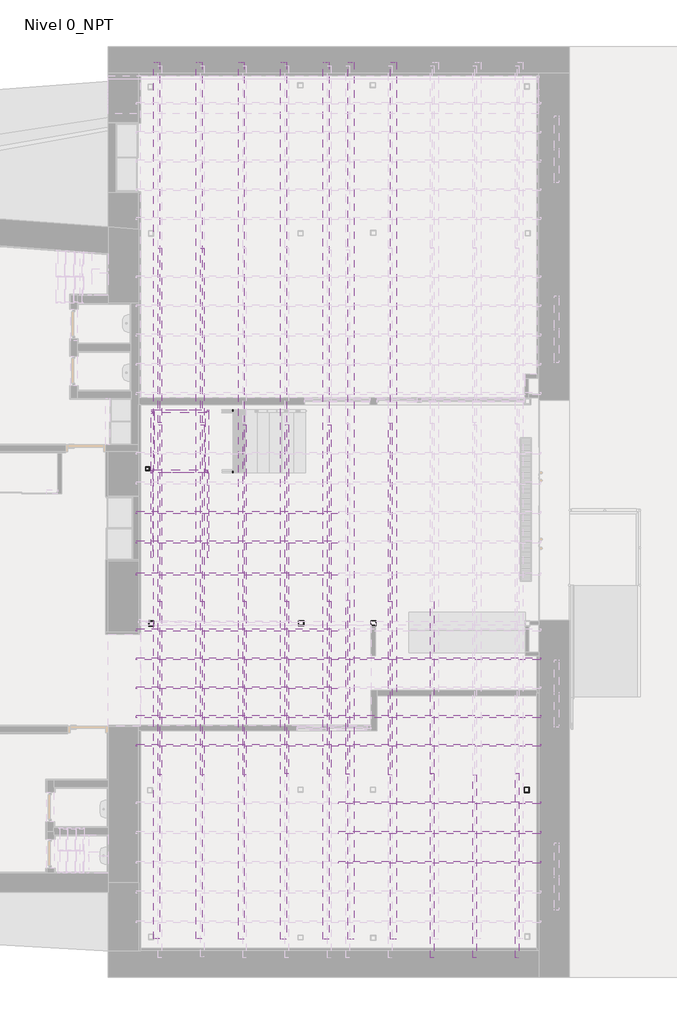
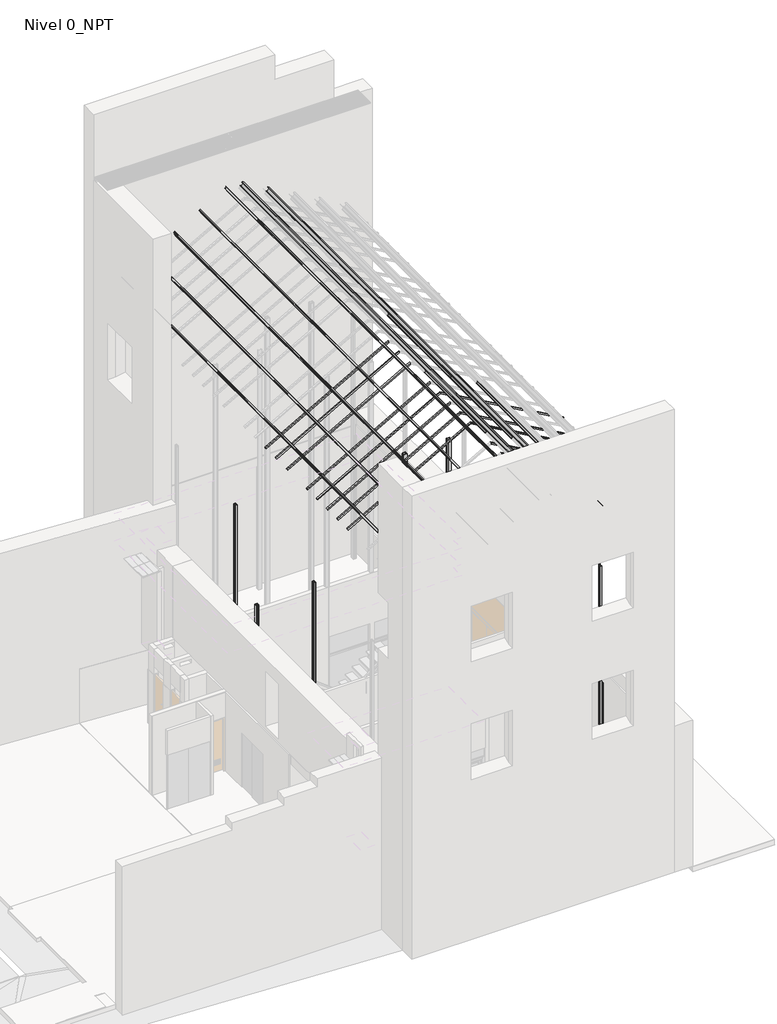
# One storey, part 6 of 10: 50 beams, 12 columns.
"""IFC4 building model written with IfcOpenShell, lengths in millimetres."""

from ifc_helpers import new_model, si_unit, point, frame, frame_2d, origin, place, context, project, spatial, polyline, circle_curve, ellipse_curve, trimmed, segment, composite_curve, outline, extrude, transform, mapped, element, save
from ifc_brep_helpers import plane_surface, cylinder_surface, revolved_surface, advanced_brep
from components import beam_4e2509dd, beam_4bc0b801, c150x19_3_1b759e16, c150x19_3_09753b85, c150x19_3_7419d847, c150x19_3_75f47aa1, ipn_140_bcc21dc4, ipn_80_8b308bd3, ipn_80_3f6c81a5, ipn_80_ef243860, ipn_80_1b30f456, ipn_80_c03a737b, ipn_80_12e77710, ipn_80_f29cdf03, ipn_80_37723b1e, ipn_80_c23ce65d, ipn_80_816be43c, ipn_80_2578fbdd, ipn_80_666343da, perfiles_escalera_perfiles_escalera_c456e6f7, perfiles_escalera2_perfiles_escalera_c5a87b5c, upe_120_d63b093c, upe_120_001e46b5, upe_120_53fdf7fa, upe_120_cf57cb14, upe_120_7fe497cd, upe_120_21539871, upe_80_0c7fc3fc, upe_80_d37b7986

model = new_model("IFC4")

# Units and contexts
model_context = context("Model", 3, world=origin())
ifc_project = project(units=[si_unit("LENGTHUNIT", "METRE", prefix="MILLI")], contexts=[model_context])

# Site, building, storey
site = spatial("IfcSite", under=ifc_project)
building = spatial("IfcBuilding", under=site)
storey = spatial("IfcBuildingStorey", under=building, Name="Nivel 0_NPT", Elevation=0.0)

# Beams
placement = place(None, origin())
beam_shape = beam_4e2509dd(model_context)
element("IfcBeam", 1, ObjectType="Armazón estructural 1 : Armazón estructural 1", at=placement, inside=storey, context=model_context, shape_type="MappedRepresentation", body=[
    mapped(beam_shape, transform((0.0, 0.0, 0.0), x_axis=(1.0, 0.0, 0.0), y_axis=(0.0, 1.0, 0.0), z_axis=(0.0, 0.0, 1.0))),
])
beam_2_shape = beam_4bc0b801(model_context)
element("IfcBeam", 2, ObjectType="Armazón estructural 5 : Armazón estructural 3", at=placement, inside=storey, context=model_context, shape_type="MappedRepresentation", body=[
    mapped(beam_2_shape, transform((0.0, 0.0, 0.0), x_axis=(1.0, 0.0, 0.0), y_axis=(0.0, 1.0, 0.0), z_axis=(0.0, 0.0, 1.0))),
])
c150x19_3_shape = c150x19_3_1b759e16(model_context)
element("IfcBeam", 3, ObjectType="EST-PER-C-HGalv : C150X19.3", at=placement, inside=storey, context=model_context, shape_type="MappedRepresentation", body=[
    mapped(c150x19_3_shape, transform((10787.023786, 3778.6072273, 15667.942593), x_axis=(0.0, -1.0, 0.0), y_axis=(0.8706797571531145, 0.0, -0.49185034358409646), z_axis=(0.49185034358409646, 0.0, 0.8706797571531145))),
])
element("IfcBeam", 4, ObjectType="EST-PER-C-HGalv : C150X19.3", at=placement, inside=storey, context=model_context, shape_type="MappedRepresentation", body=[
    mapped(c150x19_3_shape, transform((11730.6229728, 3778.6072273, 15134.8997831), x_axis=(0.0, -1.0, 0.0), y_axis=(0.8706797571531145, 0.0, -0.49185034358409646), z_axis=(0.49185034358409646, 0.0, 0.8706797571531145))),
])
c150x19_3_2_shape = c150x19_3_09753b85(model_context)
element("IfcBeam", 5, ObjectType="EST-PER-C-HGalv : C150X19.3", at=placement, inside=storey, context=model_context, shape_type="MappedRepresentation", body=[
    mapped(c150x19_3_2_shape, transform((10199.9437955, 3778.6072273, 15667.942593), x_axis=(0.0, -1.0, 0.0), y_axis=(0.8706797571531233, 0.0, 0.491850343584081), z_axis=(-0.491850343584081, 0.0, 0.8706797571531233))),
])
element("IfcBeam", 6, ObjectType="EST-PER-C-HGalv : C150X19.3", at=placement, inside=storey, context=model_context, shape_type="MappedRepresentation", body=[
    mapped(c150x19_3_2_shape, transform((9256.0725212, 3778.6072273, 15134.7460799), x_axis=(0.0, -1.0, 0.0), y_axis=(0.8706797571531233, 0.0, 0.491850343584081), z_axis=(-0.491850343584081, 0.0, 0.8706797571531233))),
])
element("IfcBeam", 7, ObjectType="EST-PER-C-HGalv : C150X19.3", at=placement, inside=storey, context=model_context, shape_type="MappedRepresentation", body=[
    mapped(c150x19_3_2_shape, transform((8312.201247, 3778.6072273, 14601.5495668), x_axis=(0.0, -1.0, 0.0), y_axis=(0.8706797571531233, 0.0, 0.491850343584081), z_axis=(-0.491850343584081, 0.0, 0.8706797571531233))),
])
c150x19_3_3_shape = c150x19_3_7419d847(model_context)
element("IfcBeam", 8, ObjectType="EST-PER-C-HGalv : C150X19.3", at=placement, inside=storey, context=model_context, shape_type="MappedRepresentation", body=[
    mapped(c150x19_3_3_shape, transform((6424.4586985, 3778.6072273, 13535.1565406), x_axis=(0.0, -1.0, 0.0), y_axis=(0.8706797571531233, 0.0, 0.491850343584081), z_axis=(-0.491850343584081, 0.0, 0.8706797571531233))),
])
c150x19_3_4_shape = c150x19_3_75f47aa1(model_context)
element("IfcBeam", 9, ObjectType="EST-PER-C-HGalv : C150X19.3", at=placement, inside=storey, context=model_context, shape_type="MappedRepresentation", body=[
    mapped(c150x19_3_4_shape, transform((7368.3299728, 3778.6072273, 14068.3530537), x_axis=(0.0, -1.0, 0.0), y_axis=(0.8706797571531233, 0.0, 0.491850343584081), z_axis=(-0.491850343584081, 0.0, 0.8706797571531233))),
])
element("IfcBeam", 10, ObjectType="IPN - Secciones en I con alas cónicas : IPN 140", at=placement, inside=storey, context=model_context, shape_type="AdvancedBrep", body=[
    advanced_brep(
    [(7533.5983807, 6211.4911558, 1800.275), (7599.5983807, 6211.4911558, 1800.275), (7599.5983807, 6211.4911558, 1796.9421583), (7596.6697834, 6211.4911558, 1793.5749964), (7574.358088, 6211.4911558, 1790.451359), (7569.4483807, 6211.4911558, 1784.8064111), (7569.4483807, 6211.4911558, 1675.7435889), (7574.358088, 6211.4911558, 1670.098641), (7596.6697834, 6211.4911558, 1666.9750036), (7599.5983807, 6211.4911558, 1663.6078417), (7599.5983807, 6211.4911558, 1660.275), (7533.5983807, 6211.4911558, 1660.275), (7533.5983807, 6211.4911558, 1663.6078417), (7536.526978, 6211.4911558, 1666.9750036), (7558.8386734, 6211.4911558, 1670.098641), (7563.7483807, 6211.4911558, 1675.7435889), (7563.7483807, 6211.4911558, 1784.8064111), (7558.8386734, 6211.4911558, 1790.451359), (7536.526978, 6211.4911558, 1793.5749964), (7533.5983807, 6211.4911558, 1796.9421583), (7533.5983807, 4910.3572273, 1796.9421583), (7533.5983807, 4910.3572273, 1800.275), (7536.526978, 4907.42863, 1793.5749964), (7558.8386734, 4885.1169346, 1790.451359), (7563.7483807, 4880.2072273, 1784.8064111), (7563.7483807, 4880.2072273, 1675.7435889), (7558.8386734, 4885.1169346, 1670.098641), (7536.526978, 4907.42863, 1666.9750036), (7533.5983807, 4910.3572273, 1663.6078417), (7533.5983807, 4910.3572273, 1660.275), (7599.5983807, 4844.3572273, 1660.275), (7599.5983807, 4844.3572273, 1663.6078417), (7596.6697834, 4847.2858246, 1666.9750036), (7574.358088, 4869.59752, 1670.098641), (7569.4483807, 4874.5072273, 1675.7435889), (7569.4483807, 4874.5072273, 1784.8064111), (7574.358088, 4869.59752, 1790.451359), (7596.6697834, 4847.2858246, 1793.5749964), (7599.5983807, 4844.3572273, 1796.9421583), (7599.5983807, 4844.3572273, 1800.275)],
    [
        (0, 1),
        (1, 2),
        (2, 3, circle_curve(frame((7596.1983807, 6211.4911558, 1796.9421583), z_axis=(0.0, 1.0, 0.0), x_axis=(-1.0, 0.0, 0.0)), 3.4)),
        (3, 4),
        (4, 5, circle_curve(frame((7575.1483807, 6211.4911558, 1784.8064111), z_axis=(0.0, -1.0, 0.0), x_axis=(-1.0, 0.0, 0.0)), 5.7)),
        (5, 6),
        (6, 7, circle_curve(frame((7575.1483807, 6211.4911558, 1675.7435889), z_axis=(0.0, -1.0, 0.0), x_axis=(-1.0, 0.0, 0.0)), 5.7)),
        (7, 8),
        (8, 9, circle_curve(frame((7596.1983807, 6211.4911558, 1663.6078417), z_axis=(0.0, 1.0, 0.0), x_axis=(-1.0, 0.0, 0.0)), 3.4)),
        (9, 10),
        (10, 11),
        (11, 12),
        (12, 13, circle_curve(frame((7536.9983807, 6211.4911558, 1663.6078417), z_axis=(0.0, 1.0, 0.0), x_axis=(-1.0, 0.0, 0.0)), 3.4)),
        (13, 14),
        (14, 15, circle_curve(frame((7558.0483807, 6211.4911558, 1675.7435889), z_axis=(0.0, -1.0, 0.0), x_axis=(-1.0, 0.0, 0.0)), 5.7)),
        (15, 16),
        (16, 17, circle_curve(frame((7558.0483807, 6211.4911558, 1784.8064111), z_axis=(0.0, -1.0, 0.0), x_axis=(-1.0, 0.0, 0.0)), 5.7)),
        (17, 18),
        (18, 19, circle_curve(frame((7536.9983807, 6211.4911558, 1796.9421583), z_axis=(0.0, 1.0, 0.0), x_axis=(-1.0, 0.0, 0.0)), 3.4)),
        (19, 0),
        (19, 20),
        (20, 21),
        (21, 0),
        (18, 22),
        (22, 20, ellipse_curve(frame((7536.9983807, 4906.9572273, 1796.9421583), z_axis=(0.7071067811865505, 0.7071067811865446, 0.0), x_axis=(-0.7071067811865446, 0.7071067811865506, 0.0)), 4.8083261, 3.4)),
        (17, 23),
        (23, 22),
        (16, 24),
        (24, 23, ellipse_curve(frame((7558.0483807, 4885.9072273, 1784.8064111), z_axis=(-0.7071067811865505, -0.7071067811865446, 0.0), x_axis=(0.7071067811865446, -0.7071067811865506, 0.0)), 8.0610173, 5.7)),
        (15, 25),
        (25, 24),
        (14, 26),
        (26, 25, ellipse_curve(frame((7558.0483807, 4885.9072273, 1675.7435889), z_axis=(-0.7071067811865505, -0.7071067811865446, 0.0), x_axis=(0.7071067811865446, -0.7071067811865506, 0.0)), 8.0610173, 5.7)),
        (13, 27),
        (27, 26),
        (12, 28),
        (28, 27, ellipse_curve(frame((7536.9983807, 4906.9572273, 1663.6078417), z_axis=(0.7071067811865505, 0.7071067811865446, 0.0), x_axis=(-0.7071067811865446, 0.7071067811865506, 0.0)), 4.8083261, 3.4)),
        (11, 29),
        (29, 28),
        (10, 30),
        (30, 29),
        (9, 31),
        (31, 30),
        (8, 32),
        (32, 31, ellipse_curve(frame((7596.1983807, 4847.7572273, 1663.6078417), z_axis=(0.7071067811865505, 0.7071067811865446, 0.0), x_axis=(-0.7071067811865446, 0.7071067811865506, 0.0)), 4.8083261, 3.4)),
        (7, 33),
        (33, 32),
        (6, 34),
        (34, 33, ellipse_curve(frame((7575.1483807, 4868.8072273, 1675.7435889), z_axis=(-0.7071067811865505, -0.7071067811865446, 0.0), x_axis=(0.7071067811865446, -0.7071067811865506, 0.0)), 8.0610173, 5.7)),
        (5, 35),
        (35, 34),
        (4, 36),
        (36, 35, ellipse_curve(frame((7575.1483807, 4868.8072273, 1784.8064111), z_axis=(-0.7071067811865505, -0.7071067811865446, 0.0), x_axis=(0.7071067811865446, -0.7071067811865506, 0.0)), 8.0610173, 5.7)),
        (3, 37),
        (37, 36),
        (2, 38),
        (38, 37, ellipse_curve(frame((7596.1983807, 4847.7572273, 1796.9421583), z_axis=(0.7071067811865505, 0.7071067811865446, 0.0), x_axis=(-0.7071067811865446, 0.7071067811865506, 0.0)), 4.8083261, 3.4)),
        (1, 39),
        (39, 38),
        (21, 39),
    ],
    [
        plane_surface(frame((7566.5983807, 6211.4911558, 1730.275), z_axis=(0.0, 1.0, 0.0), x_axis=(0.0, 0.0, 1.0))),
        plane_surface(frame((7533.5983807, 6211.4911558, 1800.275), z_axis=(-1.0, 0.0, 0.0), x_axis=(0.0, -1.0, 0.0))),
        cylinder_surface(frame((7536.9983807, 6211.4911558, 1796.9421583), z_axis=(0.0, 1.0, 0.0), x_axis=(-1.0, 0.0, 0.0)), 3.4),
        plane_surface(frame((7550.0983807, 6211.4911558, 1791.675), z_axis=(-0.13864784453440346, 0.0, -0.9903417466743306), x_axis=(0.0, -1.0, 0.0))),
        revolved_surface(polyline([(7552.3483807, 4880.2072273, 1784.8064111), (7552.3483807, 6211.4911558, 1784.8064111)]), (7558.0483807, 6211.4911558, 1784.8064111), (0.0, -1.0, 0.0)),
        plane_surface(frame((7563.7483807, 6211.4911558, 1784.8064111), z_axis=(-1.0, 0.0, 0.0), x_axis=(0.0, -1.0, 0.0))),
        revolved_surface(polyline([(7552.3483807, 4880.2072273, 1675.7435889), (7552.3483807, 6211.4911558, 1675.7435889)]), (7558.0483807, 6211.4911558, 1675.7435889), (0.0, -1.0, 0.0)),
        plane_surface(frame((7550.0983807, 6211.4911558, 1668.875), z_axis=(-0.1386478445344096, 0.0, 0.9903417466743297), x_axis=(0.0, -1.0, 0.0))),
        cylinder_surface(frame((7536.9983807, 6211.4911558, 1663.6078417), z_axis=(0.0, 1.0, 0.0), x_axis=(-1.0, 0.0, 0.0)), 3.4),
        plane_surface(frame((7533.5983807, 6211.4911558, 1663.6078417), z_axis=(-1.0, 0.0, 0.0), x_axis=(0.0, -1.0, 0.0))),
        plane_surface(frame((7533.5983807, 6211.4911558, 1660.275), z_axis=(0.0, 0.0, -1.0), x_axis=(0.0, -1.0, 0.0))),
        plane_surface(frame((7599.5983807, 6211.4911558, 1660.275), z_axis=(1.0, 0.0, 0.0), x_axis=(0.0, -1.0, 0.0))),
        cylinder_surface(frame((7596.1983807, 6211.4911558, 1663.6078417), z_axis=(0.0, 1.0, 0.0), x_axis=(-1.0, 0.0, 0.0)), 3.4),
        plane_surface(frame((7583.0983807, 6211.4911558, 1668.875), z_axis=(0.13864784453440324, 0.0, 0.9903417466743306), x_axis=(0.0, -1.0, 0.0))),
        revolved_surface(polyline([(7569.448380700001, 4863.107227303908, 1675.7435889), (7569.448380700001, 6211.4911558, 1675.7435889)]), (7575.1483807, 6211.4911558, 1675.7435889), (0.0, -1.0, 0.0)),
        plane_surface(frame((7569.4483807, 6211.4911558, 1675.7435889), z_axis=(1.0, 0.0, 0.0), x_axis=(0.0, -1.0, 0.0))),
        revolved_surface(polyline([(7569.448380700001, 4863.107227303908, 1784.8064111), (7569.448380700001, 6211.4911558, 1784.8064111)]), (7575.1483807, 6211.4911558, 1784.8064111), (0.0, -1.0, 0.0)),
        plane_surface(frame((7583.0983807, 6211.4911558, 1791.675), z_axis=(0.1386478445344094, 0.0, -0.9903417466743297), x_axis=(0.0, -1.0, 0.0))),
        cylinder_surface(frame((7596.1983807, 6211.4911558, 1796.9421583), z_axis=(0.0, 1.0, 0.0), x_axis=(-1.0, 0.0, 0.0)), 3.4),
        plane_surface(frame((7599.5983807, 6211.4911558, 1796.9421583), z_axis=(1.0, 0.0, 0.0), x_axis=(0.0, -1.0, 0.0))),
        plane_surface(frame((7599.5983807, 6211.4911558, 1800.275), z_axis=(0.0, 0.0, 1.0), x_axis=(0.0, -1.0, 0.0))),
        plane_surface(frame((7533.5983807, 4910.3572273, 1800.275), z_axis=(-0.7071067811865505, -0.7071067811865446, 0.0), x_axis=(0.7071067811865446, -0.7071067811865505, 0.0))),
    ],
    [
        (0, [[1, 2, 3, 4, 5, 6, 7, 8, 9, 10, 11, 12, 13, 14, 15, 16, 17, 18, 19, 20]]),
        (1, [[21, 22, 23, -20]]),
        (2, [[24, 25, -21, -19]]),
        (3, [[-18, 26, 27, -24]]),
        (4, [[28, 29, -26, -17]]),
        (5, [[30, 31, -28, -16]]),
        (6, [[32, 33, -30, -15]]),
        (7, [[-14, 34, 35, -32]]),
        (8, [[36, 37, -34, -13]]),
        (9, [[38, 39, -36, -12]]),
        (10, [[40, 41, -38, -11]]),
        (11, [[42, 43, -40, -10]]),
        (12, [[44, 45, -42, -9]]),
        (13, [[-8, 46, 47, -44]]),
        (14, [[48, 49, -46, -7]]),
        (15, [[50, 51, -48, -6]]),
        (16, [[52, 53, -50, -5]]),
        (17, [[-4, 54, 55, -52]]),
        (18, [[56, 57, -54, -3]]),
        (19, [[58, 59, -56, -2]]),
        (20, [[-23, 60, -58, -1]]),
        (21, [[-22, -25, -27, -29, -31, -33, -35, -37, -39, -41, -43, -45, -47, -49, -51, -53, -55, -57, -59, -60]]),
    ],
),
])
element("IfcBeam", 11, ObjectType="IPN - Secciones en I con alas cónicas : IPN 140", at=placement, inside=storey, context=model_context, shape_type="SweptSolid", body=[
    extrude(outline(composite_curve([segment(polyline([(1603.7873068, 7599.5983807), (1603.7873068, 7533.5983807), (1600.4544651, 7533.5983807)]), True, "CONTINUOUS"), segment(trimmed(circle_curve(frame_2d((1600.4544651, 7536.9983807)), 3.4), [point((1600.4544651, 7533.5983807))], [point((1597.0873032, 7536.526978))], False, "CARTESIAN"), True, "CONTINUOUS"), segment(polyline([(1597.0873032, 7536.526978), (1593.9636659, 7558.8386734)]), True, "CONTINUOUS"), segment(trimmed(circle_curve(frame_2d((1588.3187179, 7558.0483807)), 5.7), [point((1593.9636659, 7558.8386734))], [point((1588.3187179, 7563.7483807))], True, "CARTESIAN"), True, "CONTINUOUS"), segment(polyline([(1588.3187179, 7563.7483807), (1479.2558958, 7563.7483807)]), True, "CONTINUOUS"), segment(trimmed(circle_curve(frame_2d((1479.2558958, 7558.0483807)), 5.7), [point((1479.2558958, 7563.7483807))], [point((1473.6109478, 7558.8386734))], True, "CARTESIAN"), True, "CONTINUOUS"), segment(polyline([(1473.6109478, 7558.8386734), (1470.4873105, 7536.526978)]), True, "CONTINUOUS"), segment(trimmed(circle_curve(frame_2d((1467.1201485, 7536.9983807)), 3.4), [point((1470.4873105, 7536.526978))], [point((1467.1201485, 7533.5983807))], False, "CARTESIAN"), True, "CONTINUOUS"), segment(polyline([(1467.1201485, 7533.5983807), (1463.7873068, 7533.5983807), (1463.7873068, 7599.5983807), (1467.1201485, 7599.5983807)]), True, "CONTINUOUS"), segment(trimmed(circle_curve(frame_2d((1467.1201485, 7596.1983807)), 3.4), [point((1467.1201485, 7599.5983807))], [point((1470.4873105, 7596.6697834))], False, "CARTESIAN"), True, "CONTINUOUS"), segment(polyline([(1470.4873105, 7596.6697834), (1473.6109478, 7574.358088)]), True, "CONTINUOUS"), segment(trimmed(circle_curve(frame_2d((1479.2558958, 7575.1483807)), 5.7), [point((1473.6109478, 7574.358088))], [point((1479.2558958, 7569.4483807))], True, "CARTESIAN"), True, "CONTINUOUS"), segment(polyline([(1479.2558958, 7569.4483807), (1588.3187179, 7569.4483807)]), True, "CONTINUOUS"), segment(trimmed(circle_curve(frame_2d((1588.3187179, 7575.1483807)), 5.7), [point((1588.3187179, 7569.4483807))], [point((1593.9636659, 7574.358088))], True, "CARTESIAN"), True, "CONTINUOUS"), segment(polyline([(1593.9636659, 7574.358088), (1597.0873032, 7596.6697834)]), True, "CONTINUOUS"), segment(trimmed(circle_curve(frame_2d((1600.4544651, 7596.1983807)), 3.4), [point((1597.0873032, 7596.6697834))], [point((1600.4544651, 7599.5983807))], False, "CARTESIAN"), True, "CONTINUOUS"), segment(polyline([(1600.4544651, 7599.5983807), (1603.7873068, 7599.5983807)]), True, "CONTINUOUS")], self_intersect=False)), frame((0.0, 4855.4425795, 0.0), z_axis=(0.0, 1.0, 0.0), x_axis=(0.0, 0.0, 1.0)), (0.0, 0.0, 1.0), 1356.0207889),
])
element("IfcBeam", 12, ObjectType="IPN - Secciones en I con alas cónicas : IPN 140", at=placement, inside=storey, context=model_context, shape_type="SweptSolid", body=[
    extrude(outline(composite_curve([segment(polyline([(70.0, 33.0), (70.0, -33.0), (66.6671583, -33.0)]), True, "CONTINUOUS"), segment(trimmed(circle_curve(frame_2d((66.6671583, -29.6)), 3.4), [point((66.6671583, -33.0))], [point((63.2999964, -30.0714027))], False, "CARTESIAN"), True, "CONTINUOUS"), segment(polyline([(63.2999964, -30.0714027), (60.176359, -7.7597073)]), True, "CONTINUOUS"), segment(trimmed(circle_curve(frame_2d((54.5314111, -8.55)), 5.7), [point((60.176359, -7.7597073))], [point((54.5314111, -2.85))], True, "CARTESIAN"), True, "CONTINUOUS"), segment(polyline([(54.5314111, -2.85), (-54.531411, -2.85)]), True, "CONTINUOUS"), segment(trimmed(circle_curve(frame_2d((-54.531411, -8.55)), 5.7), [point((-54.531411, -2.85))], [point((-60.176359, -7.7597073))], True, "CARTESIAN"), True, "CONTINUOUS"), segment(polyline([(-60.176359, -7.7597073), (-63.2999963, -30.0714027)]), True, "CONTINUOUS"), segment(trimmed(circle_curve(frame_2d((-66.6671583, -29.6)), 3.4), [point((-63.2999963, -30.0714027))], [point((-66.6671583, -33.0))], False, "CARTESIAN"), True, "CONTINUOUS"), segment(polyline([(-66.6671583, -33.0), (-70.0, -33.0), (-70.0, 33.0), (-66.6671583, 33.0)]), True, "CONTINUOUS"), segment(trimmed(circle_curve(frame_2d((-66.6671583, 29.6)), 3.4), [point((-66.6671583, 33.0))], [point((-63.2999963, 30.0714026))], False, "CARTESIAN"), True, "CONTINUOUS"), segment(polyline([(-63.2999963, 30.0714026), (-60.176359, 7.7597072)]), True, "CONTINUOUS"), segment(trimmed(circle_curve(frame_2d((-54.531411, 8.55)), 5.7), [point((-60.176359, 7.7597072))], [point((-54.531411, 2.85))], True, "CARTESIAN"), True, "CONTINUOUS"), segment(polyline([(-54.531411, 2.85), (54.5314111, 2.85)]), True, "CONTINUOUS"), segment(trimmed(circle_curve(frame_2d((54.5314111, 8.55)), 5.7), [point((54.5314111, 2.85))], [point((60.176359, 7.7597072))], True, "CARTESIAN"), True, "CONTINUOUS"), segment(polyline([(60.176359, 7.7597072), (63.2999964, 30.0714026)]), True, "CONTINUOUS"), segment(trimmed(circle_curve(frame_2d((66.6671583, 29.6)), 3.4), [point((63.2999964, 30.0714026))], [point((66.6671583, 33.0))], False, "CARTESIAN"), True, "CONTINUOUS"), segment(polyline([(66.6671583, 33.0), (70.0, 33.0)]), True, "CONTINUOUS")], self_intersect=False)), frame((6351.3209109, 4877.6072273, 1533.6318746), z_axis=(0.9999997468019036, 0.0, 0.0007116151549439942), x_axis=(-0.0007116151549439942, 0.0, 0.9999997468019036)), (0.0, 0.0, 1.0), 1217.9672936),
])
element("IfcBeam", 13, ObjectType="IPN - Secciones en I con alas cónicas : IPN 140", at=placement, inside=storey, context=model_context, shape_type="SweptSolid", body=[
    extrude(outline(composite_curve([segment(polyline([(70.0, -33.0), (66.6671583, -33.0)]), True, "CONTINUOUS"), segment(trimmed(circle_curve(frame_2d((66.6671583, -29.6)), 3.4), [point((66.6671583, -33.0))], [point((63.2999964, -30.0714027))], False, "CARTESIAN"), True, "CONTINUOUS"), segment(polyline([(63.2999964, -30.0714027), (60.176359, -7.7597073)]), True, "CONTINUOUS"), segment(trimmed(circle_curve(frame_2d((54.5314111, -8.55)), 5.7), [point((60.176359, -7.7597073))], [point((54.5314111, -2.85))], True, "CARTESIAN"), True, "CONTINUOUS"), segment(polyline([(54.5314111, -2.85), (-54.531411, -2.85)]), True, "CONTINUOUS"), segment(trimmed(circle_curve(frame_2d((-54.531411, -8.55)), 5.7), [point((-54.531411, -2.85))], [point((-60.176359, -7.7597073))], True, "CARTESIAN"), True, "CONTINUOUS"), segment(polyline([(-60.176359, -7.7597073), (-63.2999963, -30.0714027)]), True, "CONTINUOUS"), segment(trimmed(circle_curve(frame_2d((-66.6671583, -29.6)), 3.4), [point((-63.2999963, -30.0714027))], [point((-66.6671583, -33.0))], False, "CARTESIAN"), True, "CONTINUOUS"), segment(polyline([(-66.6671583, -33.0), (-70.0, -33.0), (-70.0, 33.0), (-66.6671583, 33.0)]), True, "CONTINUOUS"), segment(trimmed(circle_curve(frame_2d((-66.6671583, 29.6)), 3.4), [point((-66.6671583, 33.0))], [point((-63.2999963, 30.0714026))], False, "CARTESIAN"), True, "CONTINUOUS"), segment(polyline([(-63.2999963, 30.0714026), (-60.176359, 7.7597072)]), True, "CONTINUOUS"), segment(trimmed(circle_curve(frame_2d((-54.531411, 8.55)), 5.7), [point((-60.176359, 7.7597072))], [point((-54.531411, 2.85))], True, "CARTESIAN"), True, "CONTINUOUS"), segment(polyline([(-54.531411, 2.85), (54.5314111, 2.85)]), True, "CONTINUOUS"), segment(trimmed(circle_curve(frame_2d((54.5314111, 8.55)), 5.7), [point((54.5314111, 2.85))], [point((60.176359, 7.7597072))], True, "CARTESIAN"), True, "CONTINUOUS"), segment(polyline([(60.176359, 7.7597072), (63.2999964, 30.0714026)]), True, "CONTINUOUS"), segment(trimmed(circle_curve(frame_2d((66.6671583, 29.6)), 3.4), [point((63.2999964, 30.0714026))], [point((66.6671583, 33.0))], False, "CARTESIAN"), True, "CONTINUOUS"), segment(polyline([(66.6671583, 33.0), (70.0, 33.0), (70.0, -33.0)]), True, "CONTINUOUS")], self_intersect=False)), frame((7566.2054865, 6211.6117789, 1533.7873069), z_axis=(-0.9999999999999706, 0.0, 2.4249234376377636e-07), x_axis=(2.4249234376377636e-07, 0.0, 0.9999999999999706)), (0.0, 0.0, 1.0), 1220.85),
])
element("IfcBeam", 14, ObjectType="IPN - Secciones en I con alas cónicas : IPN 140", at=placement, inside=storey, context=model_context, shape_type="SweptSolid", body=[
    extrude(outline(composite_curve([segment(polyline([(70.0000001, 32.9999999), (70.0000001, -33.0000001), (66.6671583, -33.0000001)]), True, "CONTINUOUS"), segment(trimmed(circle_curve(frame_2d((66.6671583, -29.6)), 3.4), [point((66.6671583, -33.0000001))], [point((63.2999964, -30.0714027))], False, "CARTESIAN"), True, "CONTINUOUS"), segment(polyline([(63.2999964, -30.0714027), (60.1763591, -7.7597073)]), True, "CONTINUOUS"), segment(trimmed(circle_curve(frame_2d((54.5314111, -8.55)), 5.7), [point((60.1763591, -7.7597073))], [point((54.5314111, -2.8500001))], True, "CARTESIAN"), True, "CONTINUOUS"), segment(polyline([(54.5314111, -2.8500001), (-54.5314111, -2.8500001)]), True, "CONTINUOUS"), segment(trimmed(circle_curve(frame_2d((-54.5314111, -8.55)), 5.7), [point((-54.5314111, -2.8500001))], [point((-60.176359, -7.7597074))], True, "CARTESIAN"), True, "CONTINUOUS"), segment(polyline([(-60.176359, -7.7597074), (-63.2999963, -30.0714027)]), True, "CONTINUOUS"), segment(trimmed(circle_curve(frame_2d((-66.6671582, -29.6000001)), 3.4), [point((-63.2999963, -30.0714027))], [point((-66.6671582, -33.0))], False, "CARTESIAN"), True, "CONTINUOUS"), segment(polyline([(-66.6671582, -33.0), (-70.0, -33.0), (-70.0, 33.0), (-66.6671582, 33.0)]), True, "CONTINUOUS"), segment(trimmed(circle_curve(frame_2d((-66.6671582, 29.5999999)), 3.4), [point((-66.6671582, 33.0))], [point((-63.2999963, 30.0714026))], False, "CARTESIAN"), True, "CONTINUOUS"), segment(polyline([(-63.2999963, 30.0714026), (-60.176359, 7.7597072)]), True, "CONTINUOUS"), segment(trimmed(circle_curve(frame_2d((-54.5314111, 8.5499999)), 5.7), [point((-60.176359, 7.7597072))], [point((-54.5314111, 2.85))], True, "CARTESIAN"), True, "CONTINUOUS"), segment(polyline([(-54.5314111, 2.85), (54.5314111, 2.85)]), True, "CONTINUOUS"), segment(trimmed(circle_curve(frame_2d((54.5314111, 8.5499999)), 5.7), [point((54.5314111, 2.85))], [point((60.1763591, 7.7597073))], True, "CARTESIAN"), True, "CONTINUOUS"), segment(polyline([(60.1763591, 7.7597073), (63.2999964, 30.0714026)]), True, "CONTINUOUS"), segment(trimmed(circle_curve(frame_2d((66.6671583, 29.6)), 3.4), [point((63.2999964, 30.0714026))], [point((66.6671583, 32.9999999))], False, "CARTESIAN"), True, "CONTINUOUS"), segment(polyline([(66.6671583, 32.9999999), (70.0000001, 32.9999999)]), True, "CONTINUOUS")], self_intersect=False)), frame((6351.9531908, 4923.6229324, 1533.6378178), z_axis=(-0.004131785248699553, 0.9999914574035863, 0.00011606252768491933), x_axis=(4.795454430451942e-07, -0.00011606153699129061, 0.9999999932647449)), (0.0, 0.0, 1.0), 1288.0),
])
ipn_140_shape = ipn_140_bcc21dc4(model_context)
element("IfcBeam", 15, ObjectType="IPN - Secciones en I con alas cónicas : IPN 140", at=placement, inside=storey, context=model_context, shape_type="MappedRepresentation", body=[
    mapped(ipn_140_shape, transform((6347.8126262, 5544.4911558, 1730.275), x_axis=(0.0, -1.0, 0.0), y_axis=(1.0, 0.0, 0.0), z_axis=(0.0, 0.0, 1.0))),
])
ipn_80_shape = ipn_80_8b308bd3(model_context)
element("IfcBeam", 16, ObjectType="IPN - Secciones en I con alas cónicas : IPN 80", at=placement, inside=storey, context=model_context, shape_type="MappedRepresentation", body=[
    mapped(ipn_80_shape, transform((10286.4349459, 3964.8072273, 15567.4931484), x_axis=(0.0, 1.0, 0.0), y_axis=(-0.8706797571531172, 0.0, -0.49185034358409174), z_axis=(-0.49185034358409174, 0.0, 0.8706797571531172))),
])
ipn_80_2_shape = ipn_80_3f6c81a5(model_context)
element("IfcBeam", 17, ObjectType="IPN - Secciones en I con alas cónicas : IPN 80", at=placement, inside=storey, context=model_context, shape_type="MappedRepresentation", body=[
    mapped(ipn_80_2_shape, transform((6510.9498489, 7895.8072273, 13434.7070961), x_axis=(0.0, 1.0, 0.0), y_axis=(-0.8706797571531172, 0.0, -0.49185034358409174), z_axis=(-0.49185034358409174, 0.0, 0.8706797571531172))),
])
element("IfcBeam", 18, ObjectType="IPN - Secciones en I con alas cónicas : IPN 80", at=placement, inside=storey, context=model_context, shape_type="MappedRepresentation", body=[
    mapped(ipn_80_2_shape, transform((7454.8211231, 7895.8072273, 13967.9036092), x_axis=(0.0, 1.0, 0.0), y_axis=(-0.8706797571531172, 0.0, -0.49185034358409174), z_axis=(-0.49185034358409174, 0.0, 0.8706797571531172))),
])
ipn_80_3_shape = ipn_80_ef243860(model_context)
element("IfcBeam", 19, ObjectType="IPN - Secciones en I con alas cónicas : IPN 80", at=placement, inside=storey, context=model_context, shape_type="MappedRepresentation", body=[
    mapped(ipn_80_3_shape, transform((11644.1318224, 3962.3072273, 15034.4503386), x_axis=(0.0, 1.0, 0.0), y_axis=(-0.8706797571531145, 0.0, 0.49185034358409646), z_axis=(0.49185034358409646, 0.0, 0.8706797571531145))),
])
element("IfcBeam", 20, ObjectType="IPN - Secciones en I con alas cónicas : IPN 80", at=placement, inside=storey, context=model_context, shape_type="MappedRepresentation", body=[
    mapped(ipn_80_shape, transform((6510.9498489, 3964.8072273, 13434.7070961), x_axis=(0.0, 1.0, 0.0), y_axis=(-0.8706797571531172, 0.0, -0.49185034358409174), z_axis=(-0.49185034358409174, 0.0, 0.8706797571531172))),
])
element("IfcBeam", 21, ObjectType="IPN - Secciones en I con alas cónicas : IPN 80", at=placement, inside=storey, context=model_context, shape_type="MappedRepresentation", body=[
    mapped(ipn_80_shape, transform((9342.5636716, 3964.8072273, 15034.2966353), x_axis=(0.0, 1.0, 0.0), y_axis=(-0.8706797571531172, 0.0, -0.49185034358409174), z_axis=(-0.49185034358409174, 0.0, 0.8706797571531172))),
])
element("IfcBeam", 22, ObjectType="IPN - Secciones en I con alas cónicas : IPN 80", at=placement, inside=storey, context=model_context, shape_type="MappedRepresentation", body=[
    mapped(ipn_80_shape, transform((8398.6923974, 3964.8072273, 14501.1001222), x_axis=(0.0, 1.0, 0.0), y_axis=(-0.8706797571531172, 0.0, -0.49185034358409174), z_axis=(-0.49185034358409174, 0.0, 0.8706797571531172))),
])
element("IfcBeam", 23, ObjectType="IPN - Secciones en I con alas cónicas : IPN 80", at=placement, inside=storey, context=model_context, shape_type="MappedRepresentation", body=[
    mapped(ipn_80_shape, transform((7454.8211231, 3964.8072273, 13967.9036092), x_axis=(0.0, 1.0, 0.0), y_axis=(-0.8706797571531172, 0.0, -0.49185034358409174), z_axis=(-0.49185034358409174, 0.0, 0.8706797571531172))),
])
ipn_80_4_shape = ipn_80_1b30f456(model_context)
element("IfcBeam", 24, ObjectType="IPN - Secciones en I con alas cónicas : IPN 80", at=placement, inside=storey, context=model_context, shape_type="MappedRepresentation", body=[
    mapped(ipn_80_4_shape, transform((9342.5636716, 64.8072273, 15034.2966353), x_axis=(0.0, 1.0, 0.0), y_axis=(-0.8706797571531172, 0.0, -0.49185034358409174), z_axis=(-0.49185034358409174, 0.0, 0.8706797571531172))),
])
ipn_80_5_shape = ipn_80_c03a737b(model_context)
element("IfcBeam", 25, ObjectType="IPN - Secciones en I con alas cónicas : IPN 80", at=placement, inside=storey, context=model_context, shape_type="MappedRepresentation", body=[
    mapped(ipn_80_5_shape, transform((11644.1318224, 54.8072273, 15034.4503386), x_axis=(0.0, 1.0, 0.0), y_axis=(-0.8706797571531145, 0.0, 0.49185034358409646), z_axis=(0.49185034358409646, 0.0, 0.8706797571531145))),
])
ipn_80_6_shape = ipn_80_12e77710(model_context)
element("IfcBeam", 26, ObjectType="IPN - Secciones en I con alas cónicas : IPN 80", at=placement, inside=storey, context=model_context, shape_type="MappedRepresentation", body=[
    mapped(ipn_80_6_shape, transform((14474.9293829, -3917.2927727, 13435.321909), x_axis=(0.0, 1.0, 0.0), y_axis=(-0.8706797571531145, 0.0, 0.49185034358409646), z_axis=(0.49185034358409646, 0.0, 0.8706797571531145))),
])
ipn_80_7_shape = ipn_80_f29cdf03(model_context)
element("IfcBeam", 27, ObjectType="IPN - Secciones en I con alas cónicas : IPN 80", at=placement, inside=storey, context=model_context, shape_type="MappedRepresentation", body=[
    mapped(ipn_80_7_shape, transform((13531.3301961, -3917.2927727, 13968.3647188), x_axis=(0.0, 1.0, 0.0), y_axis=(-0.8706797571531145, 0.0, 0.49185034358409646), z_axis=(0.49185034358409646, 0.0, 0.8706797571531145))),
])
ipn_80_8_shape = ipn_80_37723b1e(model_context)
element("IfcBeam", 28, ObjectType="IPN - Secciones en I con alas cónicas : IPN 80", at=placement, inside=storey, context=model_context, shape_type="MappedRepresentation", body=[
    mapped(ipn_80_8_shape, transform((12587.7310092, 64.8072273, 14501.4075287), x_axis=(0.0, 1.0, 0.0), y_axis=(-0.8706797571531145, 0.0, 0.49185034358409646), z_axis=(0.49185034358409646, 0.0, 0.8706797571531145))),
])
ipn_80_9_shape = ipn_80_c23ce65d(model_context)
element("IfcBeam", 29, ObjectType="IPN - Secciones en I con alas cónicas : IPN 80", at=placement, inside=storey, context=model_context, shape_type="MappedRepresentation", body=[
    mapped(ipn_80_9_shape, transform((12587.7310092, -3907.2927727, 14501.4075287), x_axis=(0.0, 1.0, 0.0), y_axis=(-0.8706797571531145, 0.0, 0.49185034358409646), z_axis=(0.49185034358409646, 0.0, 0.8706797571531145))),
])
ipn_80_10_shape = ipn_80_816be43c(model_context)
element("IfcBeam", 30, ObjectType="IPN - Secciones en I con alas cónicas : IPN 80", at=placement, inside=storey, context=model_context, shape_type="MappedRepresentation", body=[
    mapped(ipn_80_10_shape, transform((10700.5326356, 65.6072273, 15567.4931484), x_axis=(0.0, 1.0, 0.0), y_axis=(-0.8706797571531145, 0.0, 0.49185034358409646), z_axis=(0.49185034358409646, 0.0, 0.8706797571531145))),
])
ipn_80_11_shape = ipn_80_2578fbdd(model_context)
element("IfcBeam", 31, ObjectType="IPN - Secciones en I con alas cónicas : IPN 80", at=placement, inside=storey, context=model_context, shape_type="MappedRepresentation", body=[
    mapped(ipn_80_11_shape, transform((10286.4349459, 73.6072273, 15567.4931484), x_axis=(0.0, 1.0, 0.0), y_axis=(-0.8706797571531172, 0.0, -0.49185034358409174), z_axis=(-0.49185034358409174, 0.0, 0.8706797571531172))),
])
ipn_80_12_shape = ipn_80_666343da(model_context)
element("IfcBeam", 32, ObjectType="IPN - Secciones en I con alas cónicas : IPN 80", at=placement, inside=storey, context=model_context, shape_type="MappedRepresentation", body=[
    mapped(ipn_80_12_shape, transform((6510.9498489, 54.8072273, 13434.7070961), x_axis=(0.0, 1.0, 0.0), y_axis=(-0.8706797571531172, 0.0, -0.49185034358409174), z_axis=(-0.49185034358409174, 0.0, 0.8706797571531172))),
])
element("IfcBeam", 33, ObjectType="IPN - Secciones en I con alas cónicas : IPN 80", at=placement, inside=storey, context=model_context, shape_type="MappedRepresentation", body=[
    mapped(ipn_80_12_shape, transform((8398.6923974, 54.8072273, 14501.1001222), x_axis=(0.0, 1.0, 0.0), y_axis=(-0.8706797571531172, 0.0, -0.49185034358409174), z_axis=(-0.49185034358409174, 0.0, 0.8706797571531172))),
])
element("IfcBeam", 34, ObjectType="IPN - Secciones en I con alas cónicas : IPN 80", at=placement, inside=storey, context=model_context, shape_type="MappedRepresentation", body=[
    mapped(ipn_80_12_shape, transform((7454.8211231, 54.8072273, 13967.9036092), x_axis=(0.0, 1.0, 0.0), y_axis=(-0.8706797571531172, 0.0, -0.49185034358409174), z_axis=(-0.49185034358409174, 0.0, 0.8706797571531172))),
])
element("IfcBeam", 35, ObjectType="Madera : 50x50mm", at=placement, inside=storey, context=model_context, shape_type="SweptSolid", body=[
    extrude(outline(polyline([(15638.5147209, 10493.4837907), (13089.2444167, 5980.7329544), (13045.7104289, 6005.3254716), (15581.0883255, 10493.4837907), (15638.5147209, 10493.4837907)])), frame((0.0, 3930.1072273, 0.0), z_axis=(0.0, 1.0, 0.0), x_axis=(0.0, 0.0, 1.0)), (0.0, 0.0, 1.0), 50.0),
])
element("IfcBeam", 36, ObjectType="Madera : 50x50mm", at=placement, inside=storey, context=model_context, shape_type="SweptSolid", body=[
    extrude(outline(polyline([(15638.5147209, 10493.4837907), (13089.2444167, 5980.7329544), (13045.7104289, 6005.3254716), (15581.0883255, 10493.4837907), (15638.5147209, 10493.4837907)])), frame((0.0, 3270.9405607, 0.0), z_axis=(0.0, 1.0, 0.0), x_axis=(0.0, 0.0, 1.0)), (0.0, 0.0, 1.0), 50.0),
])
element("IfcBeam", 37, ObjectType="Madera : 50x50mm", at=placement, inside=storey, context=model_context, shape_type="SweptSolid", body=[
    extrude(outline(polyline([(15638.5147209, 10493.4837907), (13089.2444167, 5980.7329544), (13045.7104289, 6005.3254716), (15581.0883255, 10493.4837907), (15638.5147209, 10493.4837907)])), frame((0.0, 2561.773894, 0.0), z_axis=(0.0, 1.0, 0.0), x_axis=(0.0, 0.0, 1.0)), (0.0, 0.0, 1.0), 50.0),
])
element("IfcBeam", 38, ObjectType="Madera : 50x50mm", at=placement, inside=storey, context=model_context, shape_type="SweptSolid", body=[
    extrude(outline(polyline([(15638.5147209, 10493.4837907), (15581.0883255, 10493.4837907), (13045.7104289, 14981.6421099), (13089.2444167, 15006.2346271), (15638.5147209, 10493.4837907)])), frame((0.0, -3203.0508896, 0.0), z_axis=(0.0, 1.0, 0.0), x_axis=(0.0, 0.0, 1.0)), (0.0, 0.0, 1.0), 50.0),
])
element("IfcBeam", 39, ObjectType="Madera : 50x50mm", at=placement, inside=storey, context=model_context, shape_type="SweptSolid", body=[
    extrude(outline(polyline([(15638.5147209, 10493.4837907), (15581.0883255, 10493.4837907), (13045.7104289, 14981.6421099), (13089.2444167, 15006.2346271), (15638.5147209, 10493.4837907)])), frame((0.0, -2539.7218311, 0.0), z_axis=(0.0, 1.0, 0.0), x_axis=(0.0, 0.0, 1.0)), (0.0, 0.0, 1.0), 50.0),
])
element("IfcBeam", 40, ObjectType="Madera : 50x50mm", at=placement, inside=storey, context=model_context, shape_type="SweptSolid", body=[
    extrude(outline(polyline([(15638.5147209, 10493.4837907), (15581.0883255, 10493.4837907), (13045.7104289, 14981.6421099), (13089.2444167, 15006.2346271), (15638.5147209, 10493.4837907)])), frame((0.0, -3866.379948, 0.0), z_axis=(0.0, 1.0, 0.0), x_axis=(0.0, 0.0, 1.0)), (0.0, 0.0, 1.0), 50.0),
])
element("IfcBeam", 41, ObjectType="Madera : 50x50mm", at=placement, inside=storey, context=model_context, shape_type="SweptSolid", body=[
    extrude(outline(polyline([(15638.5147209, 10493.4837907), (15581.0883255, 10493.4837907), (13045.7104289, 14981.6421099), (13089.2444167, 15006.2346271), (15638.5147209, 10493.4837907)])), frame((0.0, 668.273894, 0.0), z_axis=(0.0, 1.0, 0.0), x_axis=(0.0, 0.0, 1.0)), (0.0, 0.0, 1.0), 50.0),
])
element("IfcBeam", 42, ObjectType="Madera : 50x50mm", at=placement, inside=storey, context=model_context, shape_type="SweptSolid", body=[
    extrude(outline(polyline([(15638.5147209, 10493.4837907), (15581.0883255, 10493.4837907), (13045.7104289, 14981.6421099), (13089.2444167, 15006.2346271), (15638.5147209, 10493.4837907)])), frame((0.0, -616.0594393, 0.0), z_axis=(0.0, 1.0, 0.0), x_axis=(0.0, 0.0, 1.0)), (0.0, 0.0, 1.0), 50.0),
])
element("IfcBeam", 43, ObjectType="Madera : 50x50mm", at=placement, inside=storey, context=model_context, shape_type="SweptSolid", body=[
    extrude(outline(polyline([(15638.5147209, 10493.4837907), (15581.0883255, 10493.4837907), (13045.7104289, 14981.6421099), (13089.2444167, 15006.2346271), (15638.5147209, 10493.4837907)])), frame((0.0, -1258.226106, 0.0), z_axis=(0.0, 1.0, 0.0), x_axis=(0.0, 0.0, 1.0)), (0.0, 0.0, 1.0), 50.0),
])
element("IfcBeam", 44, ObjectType="Madera : 50x50mm", at=placement, inside=storey, context=model_context, shape_type="SweptSolid", body=[
    extrude(outline(polyline([(15638.5147209, 10493.4837907), (13089.2444167, 5980.7329544), (13045.7104289, 6005.3254716), (15581.0883255, 10493.4837907), (15638.5147209, 10493.4837907)])), frame((0.0, 668.273894, 0.0), z_axis=(0.0, 1.0, 0.0), x_axis=(0.0, 0.0, 1.0)), (0.0, 0.0, 1.0), 50.0),
])
element("IfcBeam", 45, ObjectType="Madera : 50x50mm", at=placement, inside=storey, context=model_context, shape_type="SweptSolid", body=[
    extrude(outline(polyline([(15638.5147209, 10493.4837907), (13089.2444167, 5980.7329544), (13045.7104289, 6005.3254716), (15581.0883255, 10493.4837907), (15638.5147209, 10493.4837907)])), frame((0.0, 1310.4405607, 0.0), z_axis=(0.0, 1.0, 0.0), x_axis=(0.0, 0.0, 1.0)), (0.0, 0.0, 1.0), 50.0),
])
element("IfcBeam", 46, ObjectType="Madera : 50x50mm", at=placement, inside=storey, context=model_context, shape_type="SweptSolid", body=[
    extrude(outline(polyline([(15638.5147209, 10493.4837907), (13089.2444167, 5980.7329544), (13045.7104289, 6005.3254716), (15581.0883255, 10493.4837907), (15638.5147209, 10493.4837907)])), frame((0.0, 26.1072273, 0.0), z_axis=(0.0, 1.0, 0.0), x_axis=(0.0, 0.0, 1.0)), (0.0, 0.0, 1.0), 50.0),
])
element("IfcBeam", 47, ObjectType="Madera : 50x50mm", at=placement, inside=storey, context=model_context, shape_type="SweptSolid", body=[
    extrude(outline(polyline([(15638.5147209, 10493.4837907), (13089.2444167, 5980.7329544), (13045.7104289, 6005.3254716), (15581.0883255, 10493.4837907), (15638.5147209, 10493.4837907)])), frame((0.0, -616.0594393, 0.0), z_axis=(0.0, 1.0, 0.0), x_axis=(0.0, 0.0, 1.0)), (0.0, 0.0, 1.0), 50.0),
])
element("IfcBeam", 48, ObjectType="Madera : 50x50mm", at=placement, inside=storey, context=model_context, shape_type="SweptSolid", body=[
    extrude(outline(polyline([(15638.5147209, 10493.4837907), (13089.2444167, 5980.7329544), (13045.7104289, 6005.3254716), (15581.0883255, 10493.4837907), (15638.5147209, 10493.4837907)])), frame((0.0, -1258.226106, 0.0), z_axis=(0.0, 1.0, 0.0), x_axis=(0.0, 0.0, 1.0)), (0.0, 0.0, 1.0), 50.0),
])
perfiles_escalera_perfiles_escalera_shape = perfiles_escalera_perfiles_escalera_c456e6f7(model_context)
element("IfcBeam", 49, ObjectType="Perfiles escalera : Perfiles escalera", at=placement, inside=storey, context=model_context, shape_type="MappedRepresentation", body=[
    mapped(perfiles_escalera_perfiles_escalera_shape, transform((0.0, 0.0, 0.0), x_axis=(1.0, 0.0, 0.0), y_axis=(0.0, 1.0, 0.0), z_axis=(0.0, 0.0, 1.0))),
])
perfiles_escalera2_perfiles_escalera_shape = perfiles_escalera2_perfiles_escalera_c5a87b5c(model_context)
element("IfcBeam", 50, ObjectType="Perfiles escalera2 : Perfiles escalera", at=placement, inside=storey, context=model_context, shape_type="MappedRepresentation", body=[
    mapped(perfiles_escalera2_perfiles_escalera_shape, transform((0.0, 0.0, 0.0), x_axis=(1.0, 0.0, 0.0), y_axis=(0.0, 1.0, 0.0), z_axis=(0.0, 0.0, 1.0))),
])

# Columns
upe_120_shape = upe_120_d63b093c(model_context)
element("IfcColumn", 51, ObjectType="UPE - Canales de ala paralela - Pilar : UPE 120", at=placement, inside=storey, context=model_context, shape_type="MappedRepresentation", body=[
    mapped(upe_120_shape, transform((14658.6126262, -2226.3927727, 0.0), x_axis=(1.0, 0.0, 0.0), y_axis=(0.0, 1.0, 0.0), z_axis=(0.0, 0.0, 1.0))),
])
upe_120_2_shape = upe_120_001e46b5(model_context)
element("IfcColumn", 52, ObjectType="UPE - Canales de ala paralela - Pilar : UPE 120", at=placement, inside=storey, context=model_context, shape_type="MappedRepresentation", body=[
    mapped(upe_120_2_shape, transform((9659.8126262, 1524.8072273, 0.0), x_axis=(0.0, -1.0, 0.0), y_axis=(1.0, 0.0, 0.0), z_axis=(0.0, 0.0, 1.0))),
])
element("IfcColumn", 53, ObjectType="UPE - Canales de ala paralela - Pilar : UPE 120", at=placement, inside=storey, context=model_context, shape_type="MappedRepresentation", body=[
    mapped(upe_120_2_shape, transform((11273.8126262, 1524.8072273, 0.0), x_axis=(0.0, -1.0, 0.0), y_axis=(1.0, 0.0, 0.0), z_axis=(0.0, 0.0, 1.0))),
])
upe_120_3_shape = upe_120_53fdf7fa(model_context)
element("IfcColumn", 54, ObjectType="UPE - Canales de ala paralela - Pilar : UPE 120", at=placement, inside=storey, context=model_context, shape_type="MappedRepresentation", body=[
    mapped(upe_120_3_shape, transform((9659.8126262, 1454.4072273, 0.0), x_axis=(0.0, 1.0, 0.0), y_axis=(-1.0, 0.0, 0.0), z_axis=(0.0, 0.0, 1.0))),
])
element("IfcColumn", 55, ObjectType="UPE - Canales de ala paralela - Pilar : UPE 120", at=placement, inside=storey, context=model_context, shape_type="MappedRepresentation", body=[
    mapped(upe_120_3_shape, transform((11273.8126262, 1454.4072273, 0.0), x_axis=(0.0, 1.0, 0.0), y_axis=(-1.0, 0.0, 0.0), z_axis=(0.0, 0.0, 1.0))),
])
upe_120_4_shape = upe_120_cf57cb14(model_context)
element("IfcColumn", 56, ObjectType="UPE - Canales de ala paralela - Pilar : UPE 120", at=placement, inside=storey, context=model_context, shape_type="MappedRepresentation", body=[
    mapped(upe_120_4_shape, transform((6339.0126262, 6435.6072273, 0.0), x_axis=(-1.0, 0.0, 0.0), y_axis=(0.0, -1.0, 0.0), z_axis=(0.0, 0.0, 1.0))),
])
element("IfcColumn", 57, ObjectType="UPE - Canales de ala paralela - Pilar : UPE 120", at=placement, inside=storey, context=model_context, shape_type="MappedRepresentation", body=[
    mapped(upe_120_4_shape, transform((6354.0126262, 1484.5940615, 0.0), x_axis=(-1.0, 0.0, 0.0), y_axis=(0.0, -1.0, 0.0), z_axis=(0.0, 0.0, 1.0))),
])
upe_120_5_shape = upe_120_7fe497cd(model_context)
element("IfcColumn", 58, ObjectType="UPE - Canales de ala paralela - Pilar : UPE 120", at=placement, inside=storey, context=model_context, shape_type="MappedRepresentation", body=[
    mapped(upe_120_5_shape, transform((14729.0126262, -2226.3927727, 0.0), x_axis=(-1.0, 0.0, 0.0), y_axis=(0.0, -1.0, 0.0), z_axis=(0.0, 0.0, 1.0))),
])
upe_120_6_shape = upe_120_21539871(model_context)
element("IfcColumn", 59, ObjectType="UPE - Canales de ala paralela - Pilar : UPE 120", at=placement, inside=storey, context=model_context, shape_type="MappedRepresentation", body=[
    mapped(upe_120_6_shape, transform((6268.6126262, 6435.6072273, 0.0), x_axis=(1.0, 0.0, 0.0), y_axis=(0.0, 1.0, 0.0), z_axis=(0.0, 0.0, 1.0))),
])
element("IfcColumn", 60, ObjectType="UPE - Canales de ala paralela - Pilar : UPE 120", at=placement, inside=storey, context=model_context, shape_type="MappedRepresentation", body=[
    mapped(upe_120_6_shape, transform((6283.6126262, 1484.5940615, 0.0), x_axis=(1.0, 0.0, 0.0), y_axis=(0.0, 1.0, 0.0), z_axis=(0.0, 0.0, 1.0))),
])
upe_80_shape = upe_80_0c7fc3fc(model_context)
element("IfcColumn", 61, ObjectType="UPE - Canales de ala paralela - Pilar : UPE 80", at=placement, inside=storey, context=model_context, shape_type="MappedRepresentation", body=[
    mapped(upe_80_shape, transform((6207.0126262, 4931.6072273, 0.0), x_axis=(1.0, 0.0, 0.0), y_axis=(0.0, 1.0, 0.0), z_axis=(0.0, 0.0, 1.0))),
])
upe_80_2_shape = upe_80_d37b7986(model_context)
element("IfcColumn", 62, ObjectType="UPE - Canales de ala paralela - Pilar : UPE 80", at=placement, inside=storey, context=model_context, shape_type="MappedRepresentation", body=[
    mapped(upe_80_2_shape, transform((6260.6126262, 4931.6072273, 0.0), x_axis=(-1.0, 0.0, 0.0), y_axis=(0.0, -1.0, 0.0), z_axis=(0.0, 0.0, 1.0))),
])

save(model, "model.ifc")
